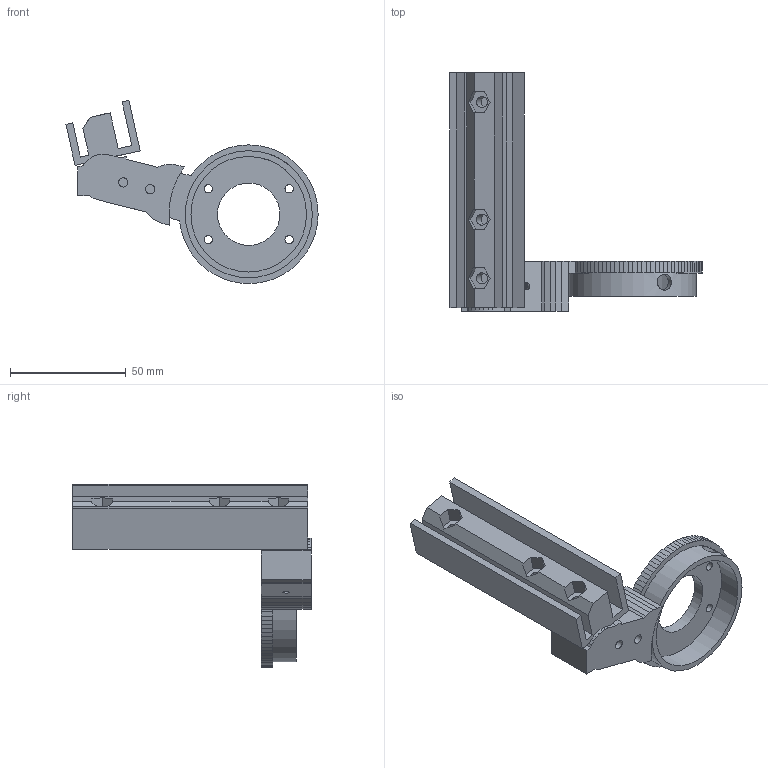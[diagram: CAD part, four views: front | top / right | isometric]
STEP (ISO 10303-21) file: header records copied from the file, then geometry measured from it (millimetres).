
FILE_DESCRIPTION(('Open CASCADE Model'),'2;1');
FILE_NAME('Open CASCADE Shape Model','2026-10-15T21:05:19',('Author'),( 'Open CASCADE'),'Open CASCADE STEP processor 7.9','Open CASCADE 7.9' ,'Unknown');
FILE_SCHEMA(('AUTOMOTIVE_DESIGN { 1 0 10303 214 1 1 1 1 }'));
Length unit declared in the file: millimetre
Products named in the file (1): Open CASCADE STEP translator 7.9 1
Bounding box: 109.09 x 103.1 x 79.26 mm (x, y, z)
Volume: 65655.5 mm3; surface area: 34916.2 mm2
Topology: 1 solids, 1 shells, 508 faces, 1498 edges, 1000 vertices
Faces by surface type: plane 491, cylinder 17
Full cylindrical faces by diameter (mm): 3 x2, 3.6 x4, 4 x2, 4.8 x3, 7 x1, 27 x1, 50 x1, 55 x1
Entity records: 35898 total; most frequent: CARTESIAN_POINT 7760, DIRECTION 4592, LINE 3335, VECTOR 3335, ORIENTED_EDGE 2996, PCURVE 2996, DEFINITIONAL_REPRESENTATION 2996, EDGE_CURVE 1498
